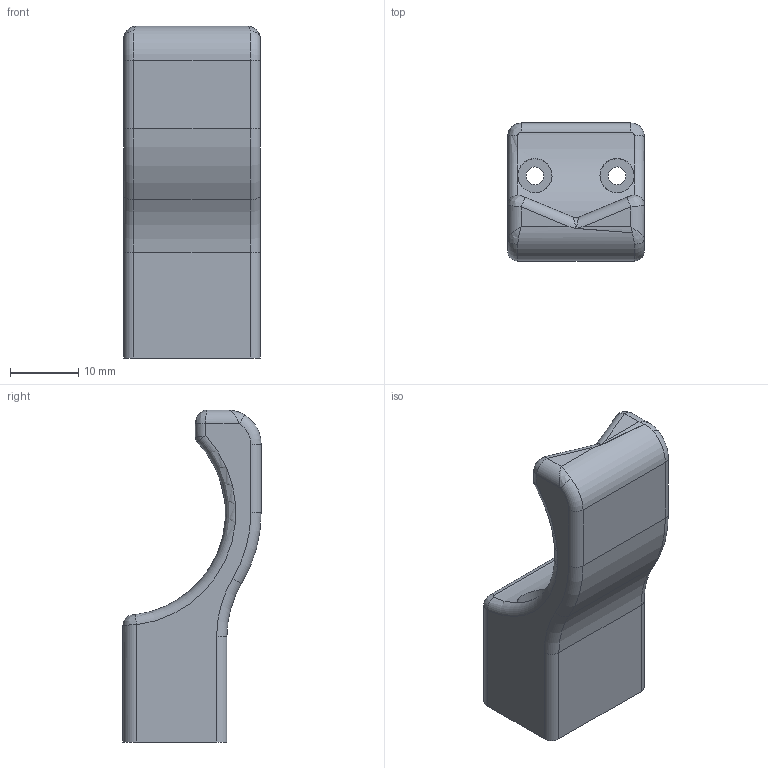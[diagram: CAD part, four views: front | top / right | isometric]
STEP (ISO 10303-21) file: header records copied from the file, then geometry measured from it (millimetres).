
FILE_DESCRIPTION(/* description */ (''),/* implementation_level */ '2;1');
FILE_NAME(/* name */ 'Evo & Cylinder Jaw.step',/* time_stamp */ '2024-09-26T15:36:28-07:00',/* author */ (''),/* organization */ (''),/* preprocessor_version */ 'ST-DEVELOPER v20',/* originating_system */ 'Autodesk Translation Framework v13.20.0.188',/* authorisation */ '');
FILE_SCHEMA (('AUTOMOTIVE_DESIGN { 1 0 10303 214 3 1 1 }'));
Length unit declared in the file: millimetre
Products named in the file (1): Gripper Lite Alternate Jaw
Bounding box: 20 x 20.2 x 48.5 mm (x, y, z)
Volume: 8636 mm3; surface area: 3971.5 mm2
Topology: 1 solids, 1 shells, 56 faces, 142 edges, 81 vertices
Faces by surface type: cylinder 22, bspline 14, plane 12, torus 8
Full cylindrical faces by diameter (mm): 2.6 x2, 5 x2
Entity records: 2102 total; most frequent: CARTESIAN_POINT 811, ORIENTED_EDGE 264, DIRECTION 254, EDGE_CURVE 132, AXIS2_PLACEMENT_3D 106, VERTEX_POINT 78, EDGE_LOOP 60, FACE_OUTER_BOUND 56
